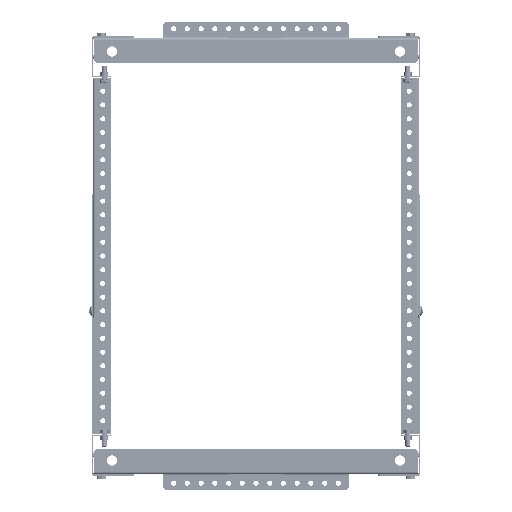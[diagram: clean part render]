
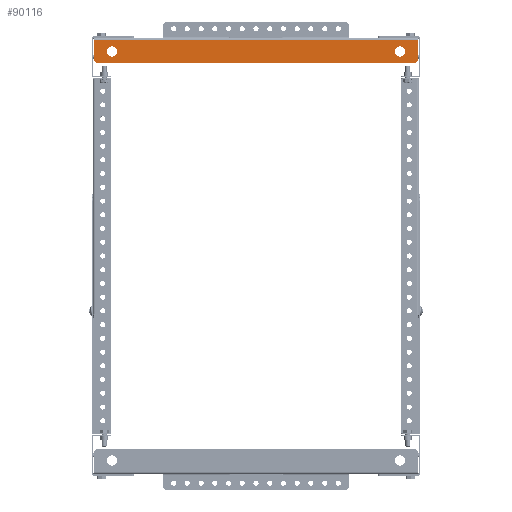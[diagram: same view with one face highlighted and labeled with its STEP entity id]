
A CAD part, front view. The second image highlights one B-rep face of the part: STEP entity #90116.
In plain terms, the highlighted planar face has unit normal (0, -1, 0).
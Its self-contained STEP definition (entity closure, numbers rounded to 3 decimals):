
#6125=FACE_BOUND('',#15677,.T.);
#6126=FACE_BOUND('',#15678,.T.);
#7777=PLANE('',#95921);
#10706=FACE_OUTER_BOUND('',#15676,.T.);
#15676=EDGE_LOOP('',(#67621,#67622,#67623,#67624,#67625,#67626));
#15677=EDGE_LOOP('',(#67627));
#15678=EDGE_LOOP('',(#67628));
#21904=LINE('',#126818,#30588);
#21908=LINE('',#126831,#30592);
#21912=LINE('',#126852,#30596);
#21913=LINE('',#126853,#30597);
#30588=VECTOR('',#105645,0.394);
#30592=VECTOR('',#105659,0.394);
#30596=VECTOR('',#105681,0.394);
#30597=VECTOR('',#105682,0.394);
#38764=CIRCLE('',#95911,0.25);
#38770=CIRCLE('',#95920,0.25);
#38771=CIRCLE('',#95922,0.375);
#38772=CIRCLE('',#95923,0.375);
#42218=VERTEX_POINT('',#126815);
#42219=VERTEX_POINT('',#126817);
#42221=VERTEX_POINT('',#126823);
#42223=VERTEX_POINT('',#126829);
#42230=VERTEX_POINT('',#126847);
#42231=VERTEX_POINT('',#126851);
#42232=VERTEX_POINT('',#126854);
#42233=VERTEX_POINT('',#126856);
#51944=EDGE_CURVE('',#42219,#42218,#21904,.T.);
#51948=EDGE_CURVE('',#42221,#42218,#38764,.T.);
#51951=EDGE_CURVE('',#42223,#42221,#21908,.T.);
#51959=EDGE_CURVE('',#42230,#42223,#38770,.T.);
#51961=EDGE_CURVE('',#42230,#42231,#21912,.T.);
#51962=EDGE_CURVE('',#42231,#42219,#21913,.T.);
#51963=EDGE_CURVE('',#42232,#42232,#38771,.T.);
#51964=EDGE_CURVE('',#42233,#42233,#38772,.T.);
#67621=ORIENTED_EDGE('',*,*,#51948,.F.);
#67622=ORIENTED_EDGE('',*,*,#51951,.F.);
#67623=ORIENTED_EDGE('',*,*,#51959,.F.);
#67624=ORIENTED_EDGE('',*,*,#51961,.T.);
#67625=ORIENTED_EDGE('',*,*,#51962,.T.);
#67626=ORIENTED_EDGE('',*,*,#51944,.T.);
#67627=ORIENTED_EDGE('',*,*,#51963,.T.);
#67628=ORIENTED_EDGE('',*,*,#51964,.T.);
#90116=ADVANCED_FACE('',(#10706,#6125,#6126),#7777,.T.);
#95911=AXIS2_PLACEMENT_3D('',#126825,#105653,#105654);
#95920=AXIS2_PLACEMENT_3D('',#126848,#105676,#105677);
#95921=AXIS2_PLACEMENT_3D('',#126850,#105679,#105680);
#95922=AXIS2_PLACEMENT_3D('',#126855,#105683,#105684);
#95923=AXIS2_PLACEMENT_3D('',#126857,#105685,#105686);
#105645=DIRECTION('',(0.,0.,1.));
#105653=DIRECTION('center_axis',(0.,1.,0.));
#105654=DIRECTION('ref_axis',(0.707,0.,0.707));
#105659=DIRECTION('',(1.,0.,0.));
#105676=DIRECTION('center_axis',(0.,1.,0.));
#105677=DIRECTION('ref_axis',(-0.707,0.,0.707));
#105679=DIRECTION('center_axis',(0.,-1.,0.));
#105680=DIRECTION('ref_axis',(0.,0.,-1.));
#105681=DIRECTION('',(0.,0.,-1.));
#105682=DIRECTION('',(1.,0.,0.));
#105683=DIRECTION('center_axis',(0.,1.,0.));
#105684=DIRECTION('ref_axis',(1.,0.,0.));
#105685=DIRECTION('center_axis',(0.,1.,0.));
#105686=DIRECTION('ref_axis',(-1.,0.,0.));
#126815=CARTESIAN_POINT('',(11.804,-1.281,1.563));
#126817=CARTESIAN_POINT('',(11.804,-1.281,0.13));
#126818=CARTESIAN_POINT('',(11.804,-1.281,1.813));
#126823=CARTESIAN_POINT('',(11.554,-1.281,1.813));
#126825=CARTESIAN_POINT('Origin',(11.554,-1.281,1.563));
#126829=CARTESIAN_POINT('',(-11.554,-1.281,1.813));
#126831=CARTESIAN_POINT('',(-11.804,-1.281,1.813));
#126847=CARTESIAN_POINT('',(-11.804,-1.281,1.563));
#126848=CARTESIAN_POINT('Origin',(-11.554,-1.281,1.563));
#126850=CARTESIAN_POINT('Origin',(-11.804,-1.281,0.));
#126851=CARTESIAN_POINT('',(-11.804,-1.281,0.13));
#126852=CARTESIAN_POINT('',(-11.804,-1.281,1.813));
#126853=CARTESIAN_POINT('',(-5.902,-1.281,0.13));
#126854=CARTESIAN_POINT('',(-10.875,-1.281,1.));
#126855=CARTESIAN_POINT('Origin',(-10.5,-1.281,1.));
#126856=CARTESIAN_POINT('',(10.875,-1.281,1.));
#126857=CARTESIAN_POINT('Origin',(10.5,-1.281,1.));
